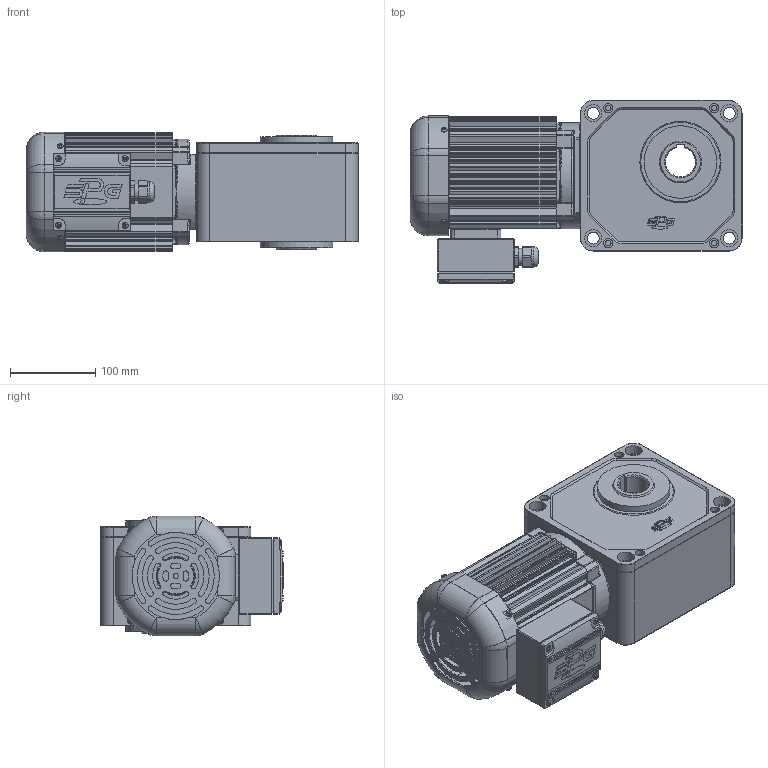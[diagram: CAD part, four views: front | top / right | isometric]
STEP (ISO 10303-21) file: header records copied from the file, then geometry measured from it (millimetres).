
FILE_DESCRIPTION(/* description */ (''),/* implementation_level */ '2;1');
FILE_NAME(/* name */ 'Z:\동력 3D 파일\PCH35_0.4kW_3D.stp',/* time_stamp */ '2021-11-09T09:46:44+09:00',/* author */ ('jaebok'),/* organization */ (''),/* preprocessor_version */ 'ST-DEVELOPER v18.1',/* originating_system */ 'Autodesk Inventor 2022',/* authorisation */ '');
FILE_SCHEMA (('AUTOMOTIVE_DESIGN { 1 0 10303 214 3 1 1 }'));
Products named in the file (1): 부품24
Bounding box: 388.5 x 214 x 140 mm (x, y, z)
Volume: 2725855.1 mm3; surface area: 671209.8 mm2
Topology: 1 solids, 26 shells, 2014 faces, 5207 edges, 3283 vertices
Faces by surface type: plane 859, cylinder 753, torus 176, bspline 100, cone 94, sphere 32
Full cylindrical faces by diameter (mm): 3.242 x5, 3.25 x1, 3.5 x4, 3.6 x4, 4 x21, 5 x13, 5.386 x4, 6 x9, 6.5 x4, 7 x12, 8 x1, 10 x1, 11 x4, 12.5 x1, 14 x4, 15 x1, 18 x1, 20 x14, 21 x1, 23.6 x1, 25 x1, 30 x1, 31 x1, 40 x1, 44 x1, 49 x2, 50 x2, 54.5 x1, 72 x2, 78 x2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
Entity records: 67241 total; most frequent: CARTESIAN_POINT 15454, DIRECTION 10778, ORIENTED_EDGE 10306, EDGE_CURVE 5153, AXIS2_PLACEMENT_3D 4161, VERTEX_POINT 3283, LINE 2456, VECTOR 2456
